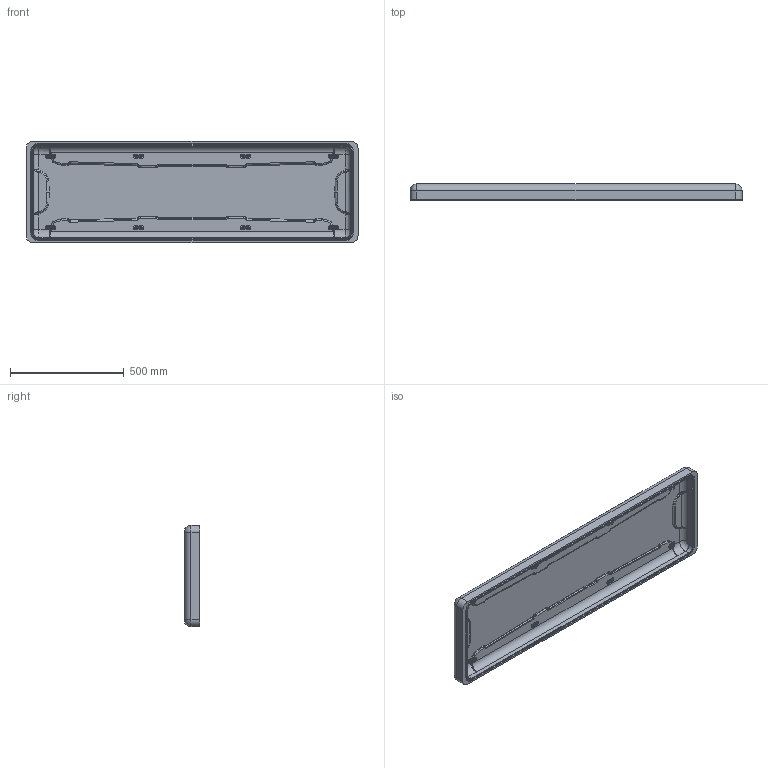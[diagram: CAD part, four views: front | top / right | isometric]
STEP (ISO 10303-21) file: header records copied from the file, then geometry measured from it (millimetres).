
FILE_DESCRIPTION (( 'STEP AP203' ), '1' );
FILE_NAME ('996_TOP INNER SURFACE_step.STEP', '2023-02-01T20:50:14', ( 'Sylvain' ), ( '' ), 'SwSTEP 2.0', 'SolidWorks 2022', '' );
FILE_SCHEMA (( 'CONFIG_CONTROL_DESIGN' ));
Products named in the file (1): 996_TOP INNER SURFACE_step
Bounding box: 1460.5 x 69.85 x 444.5 mm (x, y, z)
Volume: 15955685.8 mm3; surface area: 1713530.2 mm2
Topology: 1 solids, 1 shells, 1797 faces, 4394 edges, 2536 vertices
Faces by surface type: bspline 766, plane 425, cylinder 334, torus 116, sphere 84, cone 72
Entity records: 86491 total; most frequent: CARTESIAN_POINT 50466, ORIENTED_EDGE 8476, DIRECTION 6016, EDGE_CURVE 4238, VERTEX_POINT 2536, AXIS2_PLACEMENT_3D 2264, EDGE_LOOP 1890, ADVANCED_FACE 1797
